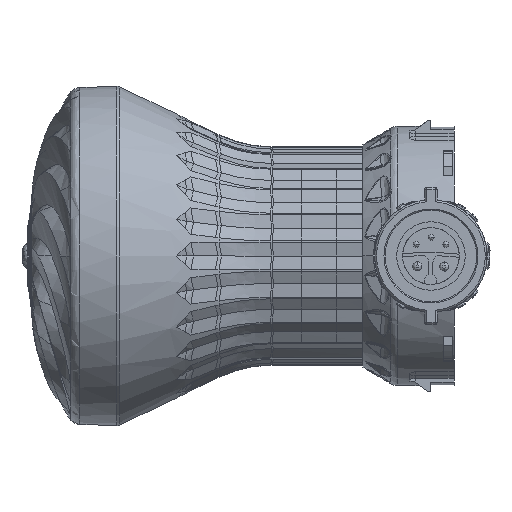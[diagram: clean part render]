
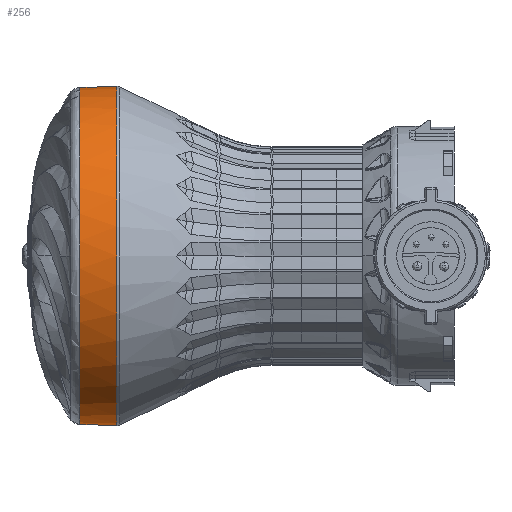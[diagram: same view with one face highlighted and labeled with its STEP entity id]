
A CAD part, left-side view. The second image highlights one B-rep face of the part: STEP entity #256.
In plain terms, the highlighted conical face has half-angle 2 degrees and reference radius 27.345 mm.
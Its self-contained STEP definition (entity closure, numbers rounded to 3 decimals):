
#256 = ADVANCED_FACE ( 'NONE', ( #50700, #17146 ), #133047, .T. ) ;
#3333 = CARTESIAN_POINT ( 'NONE',  ( -16.99, 60.554, -21.305 ) ) ;
#13083 = DIRECTION ( 'NONE',  ( 0., 1., 0. ) ) ;
#17146 = FACE_BOUND ( 'NONE', #53764, .T. ) ;
#20528 = CARTESIAN_POINT ( 'NONE',  ( 0., 54.6, 27.457 ) ) ;
#28203 = AXIS2_PLACEMENT_3D ( 'NONE', #81421, #59968, #136340 ) ;
#33646 = DIRECTION ( 'NONE',  ( 0., -1., 0. ) ) ;
#35111 = CARTESIAN_POINT ( 'NONE',  ( 0., 54.6, 0. ) ) ;
#46943 = ORIENTED_EDGE ( 'NONE', *, *, #121028, .T. ) ;
#50700 = FACE_OUTER_BOUND ( 'NONE', #95246, .T. ) ;
#53764 = EDGE_LOOP ( 'NONE', ( #46943 ) ) ;
#55038 = AXIS2_PLACEMENT_3D ( 'NONE', #55162, #33646, #122168 ) ;
#55162 = CARTESIAN_POINT ( 'NONE',  ( 0., 60.554, 0. ) ) ;
#55492 = VERTEX_POINT ( 'NONE', #3333 ) ;
#56327 = EDGE_CURVE ( 'NONE', #107604, #107604, #133530, .T. ) ;
#56588 = DIRECTION ( 'NONE',  ( 0., 0., 1. ) ) ;
#59968 = DIRECTION ( 'NONE',  ( 0., -1., 0. ) ) ;
#72047 = AXIS2_PLACEMENT_3D ( 'NONE', #35111, #13083, #56588 ) ;
#81421 = CARTESIAN_POINT ( 'NONE',  ( 0., 57.829, 0. ) ) ;
#95246 = EDGE_LOOP ( 'NONE', ( #96058 ) ) ;
#96058 = ORIENTED_EDGE ( 'NONE', *, *, #56327, .T. ) ;
#107604 = VERTEX_POINT ( 'NONE', #20528 ) ;
#116549 = CIRCLE ( 'NONE', #55038, 27.249 ) ;
#121028 = EDGE_CURVE ( 'NONE', #55492, #55492, #116549, .T. ) ;
#122168 = DIRECTION ( 'NONE',  ( -0.623, 0., -0.782 ) ) ;
#133047 = CONICAL_SURFACE ( 'NONE', #28203, 27.345, 0.035 ) ;
#133530 = CIRCLE ( 'NONE', #72047, 27.457 ) ;
#136340 = DIRECTION ( 'NONE',  ( 0.623, 0., 0.782 ) ) ;
